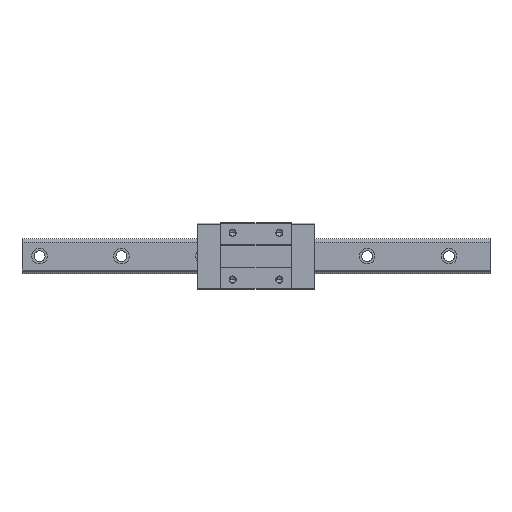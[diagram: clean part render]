
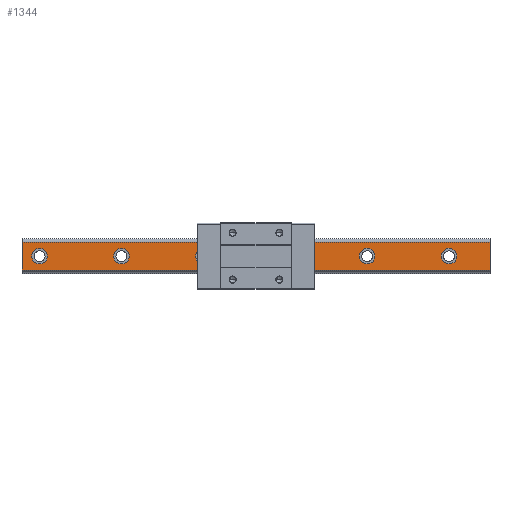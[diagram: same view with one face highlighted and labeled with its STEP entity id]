
A CAD part, top view. The second image highlights one B-rep face of the part: STEP entity #1344.
In plain terms, the highlighted planar face has unit normal (0, 0, 1).
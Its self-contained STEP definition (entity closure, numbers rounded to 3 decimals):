
#81 = CARTESIAN_POINT ( 'NONE',  ( -67.5, 0., 32. ) ) ;
#98 = FACE_BOUND ( 'NONE', #4914, .T. ) ;
#165 = ORIENTED_EDGE ( 'NONE', *, *, #3031, .F. ) ;
#169 = CARTESIAN_POINT ( 'NONE',  ( -267.5, 0., 32. ) ) ;
#236 = LINE ( 'NONE', #3744, #3801 ) ;
#318 = CARTESIAN_POINT ( 'NONE',  ( 37.5, 0., 32. ) ) ;
#320 = CARTESIAN_POINT ( 'NONE',  ( -172.5, 0., 32. ) ) ;
#339 = EDGE_CURVE ( 'NONE', #5075, #1681, #5264, .T. ) ;
#353 = CIRCLE ( 'NONE', #2786, 10. ) ;
#371 = AXIS2_PLACEMENT_3D ( 'NONE', #2441, #1145, #3373 ) ;
#374 = CARTESIAN_POINT ( 'NONE',  ( 237.5, 0., 32. ) ) ;
#458 = CARTESIAN_POINT ( 'NONE',  ( 300., -17.696, 32. ) ) ;
#534 = FACE_BOUND ( 'NONE', #1411, .T. ) ;
#576 = EDGE_CURVE ( 'NONE', #3712, #1892, #5537, .T. ) ;
#592 = DIRECTION ( 'NONE',  ( 0., 0., 1. ) ) ;
#619 = CIRCLE ( 'NONE', #4521, 10. ) ;
#627 = DIRECTION ( 'NONE',  ( 1., 0., 0. ) ) ;
#637 = AXIS2_PLACEMENT_3D ( 'NONE', #1902, #3118, #3619 ) ;
#661 = AXIS2_PLACEMENT_3D ( 'NONE', #458, #2319, #3131 ) ;
#666 = CIRCLE ( 'NONE', #5565, 10. ) ;
#720 = CARTESIAN_POINT ( 'NONE',  ( -162.5, 0., 32. ) ) ;
#738 = ORIENTED_EDGE ( 'NONE', *, *, #5124, .F. ) ;
#751 = DIRECTION ( 'NONE',  ( 1., 0., 0. ) ) ;
#768 = DIRECTION ( 'NONE',  ( 1., 0., 0. ) ) ;
#789 = CARTESIAN_POINT ( 'NONE',  ( 47.5, 0., 32. ) ) ;
#903 = CARTESIAN_POINT ( 'NONE',  ( -300., 17.696, 32. ) ) ;
#922 = CARTESIAN_POINT ( 'NONE',  ( -57.5, 0., 32. ) ) ;
#958 = AXIS2_PLACEMENT_3D ( 'NONE', #320, #2067, #2030 ) ;
#1048 = EDGE_CURVE ( 'NONE', #2707, #2055, #666, .T. ) ;
#1103 = CARTESIAN_POINT ( 'NONE',  ( -300., -17.696, 32. ) ) ;
#1116 = VERTEX_POINT ( 'NONE', #4145 ) ;
#1145 = DIRECTION ( 'NONE',  ( 0., 0., 1. ) ) ;
#1156 = EDGE_CURVE ( 'NONE', #1681, #5075, #619, .T. ) ;
#1176 = DIRECTION ( 'NONE',  ( 0., 0., 1. ) ) ;
#1226 = ORIENTED_EDGE ( 'NONE', *, *, #576, .F. ) ;
#1234 = VERTEX_POINT ( 'NONE', #4199 ) ;
#1244 = AXIS2_PLACEMENT_3D ( 'NONE', #4364, #1423, #4886 ) ;
#1254 = CARTESIAN_POINT ( 'NONE',  ( 247.5, 0., 32. ) ) ;
#1274 = CARTESIAN_POINT ( 'NONE',  ( -300., -17.696, 32. ) ) ;
#1344 = ADVANCED_FACE ( 'NONE', ( #534, #3497, #98, #1835, #3161, #3916, #3555 ), #2264, .F. ) ;
#1348 = EDGE_LOOP ( 'NONE', ( #3603, #2245 ) ) ;
#1399 = EDGE_CURVE ( 'NONE', #4196, #5013, #1621, .T. ) ;
#1411 = EDGE_LOOP ( 'NONE', ( #3761, #1919 ) ) ;
#1416 = VECTOR ( 'NONE', #2054, 1000. ) ;
#1423 = DIRECTION ( 'NONE',  ( 0., 0., 1. ) ) ;
#1480 = DIRECTION ( 'NONE',  ( -1., 0., 0. ) ) ;
#1510 = EDGE_CURVE ( 'NONE', #4189, #4019, #236, .T. ) ;
#1518 = DIRECTION ( 'NONE',  ( 0., 0., 1. ) ) ;
#1564 = EDGE_CURVE ( 'NONE', #4189, #1234, #2428, .T. ) ;
#1577 = DIRECTION ( 'NONE',  ( 0., -1., 0. ) ) ;
#1590 = CARTESIAN_POINT ( 'NONE',  ( -277.5, 0., 32. ) ) ;
#1604 = DIRECTION ( 'NONE',  ( 0., 0., 1. ) ) ;
#1614 = CIRCLE ( 'NONE', #3336, 10. ) ;
#1621 = CIRCLE ( 'NONE', #1244, 10. ) ;
#1681 = VERTEX_POINT ( 'NONE', #374 ) ;
#1723 = DIRECTION ( 'NONE',  ( 0., 0., 1. ) ) ;
#1835 = FACE_BOUND ( 'NONE', #4528, .T. ) ;
#1851 = AXIS2_PLACEMENT_3D ( 'NONE', #81, #4758, #2619 ) ;
#1860 = CARTESIAN_POINT ( 'NONE',  ( 300., 17.696, 32. ) ) ;
#1871 = VERTEX_POINT ( 'NONE', #789 ) ;
#1892 = VERTEX_POINT ( 'NONE', #4622 ) ;
#1902 = CARTESIAN_POINT ( 'NONE',  ( 142.5, 0., 32. ) ) ;
#1919 = ORIENTED_EDGE ( 'NONE', *, *, #2725, .F. ) ;
#1921 = CARTESIAN_POINT ( 'NONE',  ( -287.5, 0., 32. ) ) ;
#1999 = CIRCLE ( 'NONE', #4884, 10. ) ;
#2025 = EDGE_CURVE ( 'NONE', #4019, #4239, #3042, .T. ) ;
#2030 = DIRECTION ( 'NONE',  ( 1., 0., 0. ) ) ;
#2054 = DIRECTION ( 'NONE',  ( -1., 0., 0. ) ) ;
#2055 = VERTEX_POINT ( 'NONE', #720 ) ;
#2067 = DIRECTION ( 'NONE',  ( 0., 0., 1. ) ) ;
#2133 = DIRECTION ( 'NONE',  ( 1., 0., 0. ) ) ;
#2187 = EDGE_CURVE ( 'NONE', #4573, #4411, #1999, .T. ) ;
#2245 = ORIENTED_EDGE ( 'NONE', *, *, #1156, .F. ) ;
#2264 = PLANE ( 'NONE',  #661 ) ;
#2281 = ORIENTED_EDGE ( 'NONE', *, *, #5170, .F. ) ;
#2302 = CIRCLE ( 'NONE', #4636, 10. ) ;
#2319 = DIRECTION ( 'NONE',  ( 0., 0., -1. ) ) ;
#2372 = LINE ( 'NONE', #2814, #1416 ) ;
#2428 = LINE ( 'NONE', #5449, #3888 ) ;
#2441 = CARTESIAN_POINT ( 'NONE',  ( 247.5, 0., 32. ) ) ;
#2520 = CARTESIAN_POINT ( 'NONE',  ( -182.5, 0., 32. ) ) ;
#2619 = DIRECTION ( 'NONE',  ( 1., 0., 0. ) ) ;
#2683 = CARTESIAN_POINT ( 'NONE',  ( 37.5, 0., 32. ) ) ;
#2707 = VERTEX_POINT ( 'NONE', #2520 ) ;
#2725 = EDGE_CURVE ( 'NONE', #4411, #4573, #2302, .T. ) ;
#2786 = AXIS2_PLACEMENT_3D ( 'NONE', #2683, #4386, #4417 ) ;
#2794 = DIRECTION ( 'NONE',  ( 1., 0., 0. ) ) ;
#2814 = CARTESIAN_POINT ( 'NONE',  ( 300., -17.696, 32. ) ) ;
#2870 = ORIENTED_EDGE ( 'NONE', *, *, #1048, .F. ) ;
#2878 = EDGE_CURVE ( 'NONE', #1116, #1871, #5270, .T. ) ;
#2887 = CARTESIAN_POINT ( 'NONE',  ( -277.5, 0., 32. ) ) ;
#3031 = EDGE_CURVE ( 'NONE', #5013, #4196, #3294, .T. ) ;
#3042 = LINE ( 'NONE', #1274, #5603 ) ;
#3118 = DIRECTION ( 'NONE',  ( 0., 0., 1. ) ) ;
#3131 = DIRECTION ( 'NONE',  ( -1., 0., 0. ) ) ;
#3161 = FACE_BOUND ( 'NONE', #5143, .T. ) ;
#3174 = CARTESIAN_POINT ( 'NONE',  ( 257.5, 0., 32. ) ) ;
#3234 = CARTESIAN_POINT ( 'NONE',  ( -77.5, 0., 32. ) ) ;
#3294 = CIRCLE ( 'NONE', #1851, 10. ) ;
#3317 = DIRECTION ( 'NONE',  ( 0., 0., 1. ) ) ;
#3336 = AXIS2_PLACEMENT_3D ( 'NONE', #4834, #592, #2794 ) ;
#3373 = DIRECTION ( 'NONE',  ( 1., 0., 0. ) ) ;
#3406 = ORIENTED_EDGE ( 'NONE', *, *, #1399, .F. ) ;
#3497 = FACE_BOUND ( 'NONE', #4713, .T. ) ;
#3555 = FACE_OUTER_BOUND ( 'NONE', #3573, .T. ) ;
#3573 = EDGE_LOOP ( 'NONE', ( #4176, #2281, #4440, #4340 ) ) ;
#3603 = ORIENTED_EDGE ( 'NONE', *, *, #339, .F. ) ;
#3619 = DIRECTION ( 'NONE',  ( 1., 0., 0. ) ) ;
#3678 = CIRCLE ( 'NONE', #958, 10. ) ;
#3712 = VERTEX_POINT ( 'NONE', #4272 ) ;
#3744 = CARTESIAN_POINT ( 'NONE',  ( 300., 17.696, 32. ) ) ;
#3747 = DIRECTION ( 'NONE',  ( 1., 0., 0. ) ) ;
#3753 = ORIENTED_EDGE ( 'NONE', *, *, #2878, .F. ) ;
#3761 = ORIENTED_EDGE ( 'NONE', *, *, #2187, .F. ) ;
#3801 = VECTOR ( 'NONE', #1480, 1000. ) ;
#3888 = VECTOR ( 'NONE', #1577, 1000. ) ;
#3916 = FACE_BOUND ( 'NONE', #1348, .T. ) ;
#4019 = VERTEX_POINT ( 'NONE', #903 ) ;
#4044 = EDGE_CURVE ( 'NONE', #1871, #1116, #353, .T. ) ;
#4145 = CARTESIAN_POINT ( 'NONE',  ( 27.5, 0., 32. ) ) ;
#4176 = ORIENTED_EDGE ( 'NONE', *, *, #2025, .T. ) ;
#4189 = VERTEX_POINT ( 'NONE', #1860 ) ;
#4196 = VERTEX_POINT ( 'NONE', #3234 ) ;
#4199 = CARTESIAN_POINT ( 'NONE',  ( 300., -17.696, 32. ) ) ;
#4239 = VERTEX_POINT ( 'NONE', #1103 ) ;
#4261 = AXIS2_PLACEMENT_3D ( 'NONE', #318, #1604, #3747 ) ;
#4272 = CARTESIAN_POINT ( 'NONE',  ( 152.5, 0., 32. ) ) ;
#4274 = DIRECTION ( 'NONE',  ( 0., -1., 0. ) ) ;
#4340 = ORIENTED_EDGE ( 'NONE', *, *, #1510, .T. ) ;
#4364 = CARTESIAN_POINT ( 'NONE',  ( -67.5, 0., 32. ) ) ;
#4386 = DIRECTION ( 'NONE',  ( 0., 0., 1. ) ) ;
#4402 = ORIENTED_EDGE ( 'NONE', *, *, #5583, .F. ) ;
#4411 = VERTEX_POINT ( 'NONE', #1921 ) ;
#4417 = DIRECTION ( 'NONE',  ( 1., 0., 0. ) ) ;
#4440 = ORIENTED_EDGE ( 'NONE', *, *, #1564, .F. ) ;
#4447 = ORIENTED_EDGE ( 'NONE', *, *, #4044, .F. ) ;
#4521 = AXIS2_PLACEMENT_3D ( 'NONE', #1254, #1723, #768 ) ;
#4528 = EDGE_LOOP ( 'NONE', ( #4447, #3753 ) ) ;
#4573 = VERTEX_POINT ( 'NONE', #169 ) ;
#4622 = CARTESIAN_POINT ( 'NONE',  ( 132.5, 0., 32. ) ) ;
#4636 = AXIS2_PLACEMENT_3D ( 'NONE', #2887, #1176, #2133 ) ;
#4713 = EDGE_LOOP ( 'NONE', ( #738, #2870 ) ) ;
#4758 = DIRECTION ( 'NONE',  ( 0., 0., 1. ) ) ;
#4834 = CARTESIAN_POINT ( 'NONE',  ( 142.5, 0., 32. ) ) ;
#4884 = AXIS2_PLACEMENT_3D ( 'NONE', #1590, #3317, #751 ) ;
#4886 = DIRECTION ( 'NONE',  ( 1., 0., 0. ) ) ;
#4914 = EDGE_LOOP ( 'NONE', ( #165, #3406 ) ) ;
#5013 = VERTEX_POINT ( 'NONE', #922 ) ;
#5033 = CARTESIAN_POINT ( 'NONE',  ( -172.5, 0., 32. ) ) ;
#5075 = VERTEX_POINT ( 'NONE', #3174 ) ;
#5124 = EDGE_CURVE ( 'NONE', #2055, #2707, #3678, .T. ) ;
#5143 = EDGE_LOOP ( 'NONE', ( #1226, #4402 ) ) ;
#5170 = EDGE_CURVE ( 'NONE', #1234, #4239, #2372, .T. ) ;
#5264 = CIRCLE ( 'NONE', #371, 10. ) ;
#5270 = CIRCLE ( 'NONE', #4261, 10. ) ;
#5449 = CARTESIAN_POINT ( 'NONE',  ( 300., -17.696, 32. ) ) ;
#5537 = CIRCLE ( 'NONE', #637, 10. ) ;
#5565 = AXIS2_PLACEMENT_3D ( 'NONE', #5033, #1518, #627 ) ;
#5583 = EDGE_CURVE ( 'NONE', #1892, #3712, #1614, .T. ) ;
#5603 = VECTOR ( 'NONE', #4274, 1000. ) ;
